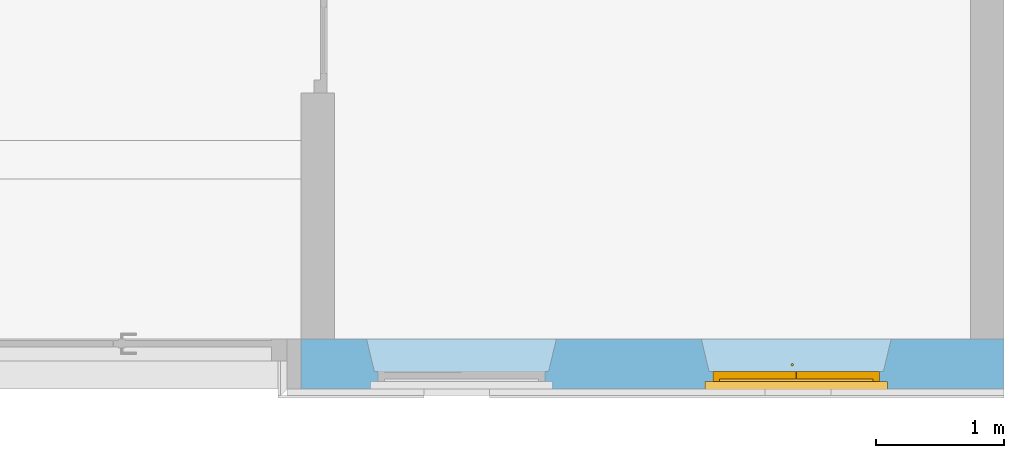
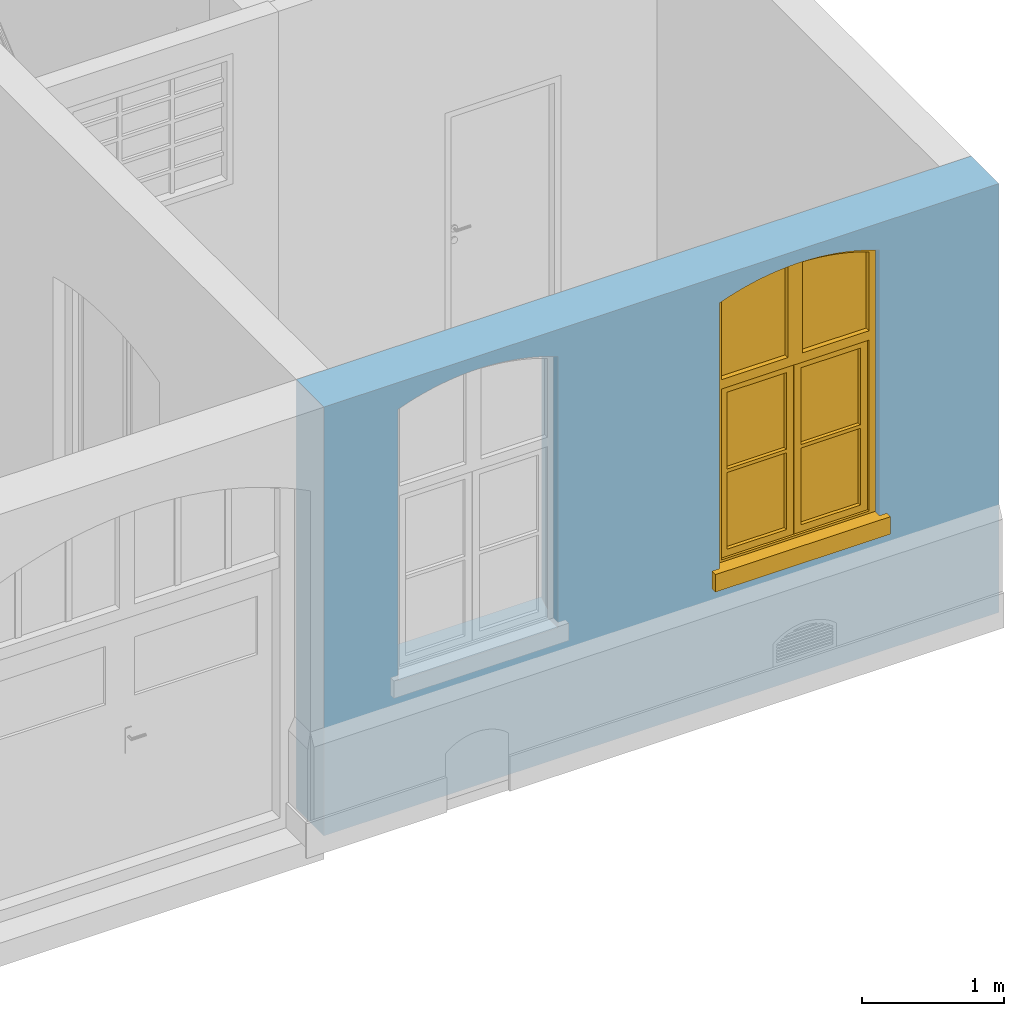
"""IFC4 building model written with IfcOpenShell, lengths in metres."""

import ifcopenshell
import ifcopenshell.guid

model = None  # the IFC model being written
_history = None  # IfcOwnerHistory: only IFC2X3 demands one
_inside = {}  # id of a spatial element -> (the spatial element, [elements in it])
_under = {}  # id of a project, library or spatial element -> (it, [spatial elements below it])
_declared = {}  # id of a project -> (the project, [libraries it declares])
_typed = {}  # id of a type object -> (the type object, [elements of that type])
_made_of = {}  # id of a material, layer set ... -> (it, [elements and type objects made of it])


def new_model(schema):
    """Start an empty IFC model of exactly this schema.

    Asked for "IFC4X3", IfcOpenShell would pick the latest addendum, in which some entities
    have other attributes; the version numbers below select the first issue.
    IFC2X3 requires an IfcOwnerHistory on every rooted entity: one is made here for all.
    """
    global model, _history
    if schema == "IFC4X3":
        model = ifcopenshell.file(schema_version=(4, 3, 0, 0))
    else:
        model = ifcopenshell.file(schema=schema)
    _inside.clear()
    _under.clear()
    _declared.clear()
    _typed.clear()
    _made_of.clear()
    _history = None
    if model.schema == "IFC2X3":
        org = make("IfcOrganization", Name="unknown")
        user = make(
            "IfcPersonAndOrganization",
            ThePerson=make("IfcPerson", FamilyName="unknown"),
            TheOrganization=org,
        )
        app = make(
            "IfcApplication",
            ApplicationDeveloper=org,
            Version="unknown",
            ApplicationFullName="unknown",
            ApplicationIdentifier="unknown",
        )
        _history = make(
            "IfcOwnerHistory",
            OwningUser=user,
            OwningApplication=app,
            ChangeAction="ADDED",
            CreationDate=0,
        )
    return model


def make(cls, **values):
    """One entity of the class cls with the attributes given. An attribute that is None is left unset."""
    return model.create_entity(
        cls, **{name: value for name, value in values.items() if value is not None}
    )


def entity(cls, *values):
    """Any entity or typed value of the class cls, its attributes in the order of the schema. None: left unset."""
    e = model.create_entity(cls)
    for i, value in enumerate(values):
        if value is not None:
            e[i] = value
    return e


def rooted(cls, **values):
    """An entity with a GlobalId (a new one), such as an element, a storey or a relation."""
    return make(cls, GlobalId=ifcopenshell.guid.new(), OwnerHistory=_history, **values)


def si_unit(unit_type, name, prefix=None):
    """IfcSIUnit, for example si_unit("LENGTHUNIT", "METRE", prefix="MILLI")."""
    return make("IfcSIUnit", UnitType=unit_type, Prefix=prefix, Name=name)


def converted_unit(unit_type, name, factor, base, dimensions=None, offset=None):
    """IfcConversionBasedUnit, such as the inch: factor (a typed value) times the base unit."""
    return make(
        "IfcConversionBasedUnit"
        if offset is None
        else "IfcConversionBasedUnitWithOffset",
        ConversionOffset=offset,
        Dimensions=None
        if dimensions is None
        else entity("IfcDimensionalExponents", *dimensions),
        UnitType=unit_type,
        Name=name,
        ConversionFactor=make(
            "IfcMeasureWithUnit", ValueComponent=factor, UnitComponent=base
        ),
    )


def derived_unit(unit_type, elements):
    """IfcDerivedUnit: a product of units, each with its exponent."""
    return make(
        "IfcDerivedUnit",
        Elements=[
            make("IfcDerivedUnitElement", Unit=unit, Exponent=power)
            for unit, power in elements
        ],
        UnitType=unit_type,
    )


def assignment(units):
    """IfcUnitAssignment: the units of a project."""
    return None if units is None else make("IfcUnitAssignment", Units=units)


def point(xyz):
    """IfcCartesianPoint."""
    return None if xyz is None else make("IfcCartesianPoint", Coordinates=xyz)


def direction(xyz):
    """IfcDirection."""
    return None if xyz is None else make("IfcDirection", DirectionRatios=xyz)


def frame(location, z_axis=None, x_axis=None):
    """IfcAxis2Placement3D, a coordinate frame: its origin and axes. An axis left out is left unset."""
    return make(
        "IfcAxis2Placement3D",
        Location=point(location),
        Axis=direction(z_axis),
        RefDirection=direction(x_axis),
    )


def frame_2d(location, x_axis=None):
    """IfcAxis2Placement2D, a coordinate frame in the plane: its origin and x axis."""
    return make(
        "IfcAxis2Placement2D", Location=point(location), RefDirection=direction(x_axis)
    )


def origin():
    """The frame at (0, 0, 0) with its axes left unset."""
    return frame((0.0, 0.0, 0.0))


def origin_with_axes():
    """The frame at (0, 0, 0) with the z axis (0, 0, 1) and the x axis (1, 0, 0) written out."""
    return frame((0.0, 0.0, 0.0), z_axis=(0.0, 0.0, 1.0), x_axis=(1.0, 0.0, 0.0))


def place(relative_to, where):
    """IfcLocalPlacement: puts the frame where relative to a parent placement (None: the world)."""
    return make(
        "IfcLocalPlacement", PlacementRelTo=relative_to, RelativePlacement=where
    )


def context(
    kind, dimensions, precision=None, world=None, true_north=None, identifier=None
):
    """IfcGeometricRepresentationContext, for example the 3D "Model" context."""
    return make(
        "IfcGeometricRepresentationContext",
        ContextIdentifier=identifier,
        ContextType=kind,
        CoordinateSpaceDimension=dimensions,
        Precision=precision,
        WorldCoordinateSystem=world,
        TrueNorth=true_north,
    )


def subcontext(parent, identifier, kind, view, scale=None):
    """IfcGeometricRepresentationSubContext, for example "Body" below "Model"."""
    return make(
        "IfcGeometricRepresentationSubContext",
        ContextIdentifier=identifier,
        ContextType=kind,
        ParentContext=parent,
        TargetScale=scale,
        TargetView=view,
    )


def project(units=None, contexts=None):
    """IfcProject with its units and contexts."""
    return rooted(
        "IfcProject",
        Name="project",
        RepresentationContexts=contexts,
        UnitsInContext=assignment(units),
    )


def spatial(cls, under=None, at=None, **own):
    """A site, building, storey or space (cls), placed at a placement, below another one or the project."""
    s = rooted(cls, ObjectPlacement=at, **own)
    if under is not None:
        _under.setdefault(under.id(), (under, []))[1].append(s)
    return s


def polyline(points):
    """IfcPolyline through the points."""
    return make("IfcPolyline", Points=[point(p) for p in points])


def profile(cls, at=None, kind="AREA", **sizes):
    """A parametric profile (cls). Its sizes go by their IFC names, for example OverallWidth=200.0."""
    return make(cls, ProfileType=kind, Position=at, **sizes)


def rectangle(**sizes):
    """IfcRectangleProfileDef."""
    return profile("IfcRectangleProfileDef", **sizes)


def outline(outer, holes=None, kind="AREA"):
    """IfcArbitraryClosedProfileDef: a profile drawn as a closed curve; with holes, ...WithVoids."""
    if holes is None:
        return make("IfcArbitraryClosedProfileDef", ProfileType=kind, OuterCurve=outer)
    return make(
        "IfcArbitraryProfileDefWithVoids",
        ProfileType=kind,
        OuterCurve=outer,
        InnerCurves=holes,
    )


def extrude(swept, where, along, depth):
    """IfcExtrudedAreaSolid: the profile swept, set in the frame where, extruded along a direction by depth."""
    return make(
        "IfcExtrudedAreaSolid",
        SweptArea=swept,
        Position=where,
        ExtrudedDirection=direction(along),
        Depth=depth,
    )


def faces_of(points, faces, orient=None, outer=None):
    """IfcFace entities. A face is a list of loops; a loop is a list of indices into points, from 0.

    orient and outer hold one flag for each loop. By default every Orientation is true, the
    first loop of a face is its IfcFaceOuterBound and the others are IfcFaceBound.
    """
    made = []
    for i, loops in enumerate(faces):
        bounds = []
        for j, loop in enumerate(loops):
            is_outer = j == 0 if outer is None else outer[i][j]
            bounds.append(
                make(
                    "IfcFaceOuterBound" if is_outer else "IfcFaceBound",
                    Bound=make("IfcPolyLoop", Polygon=[points[k] for k in loop]),
                    Orientation=True if orient is None else orient[i][j],
                )
            )
        made.append(make("IfcFace", Bounds=bounds))
    return made


def closed_shell(faces, orient=None, outer=None):
    """The faces of one IfcClosedShell. faceted_brep and surface_model build it on their shared points."""
    return ("IfcClosedShell", faces, orient, outer)


def open_shell(faces, orient=None, outer=None):
    """The faces of one IfcOpenShell. surface_model builds it on its shared points."""
    return ("IfcOpenShell", faces, orient, outer)


def surface_model(cls, points, shells):
    """IfcFaceBasedSurfaceModel or IfcShellBasedSurfaceModel (cls): surfaces that need not close."""
    shared = [point(p) for p in points]
    made = [make(c, CfsFaces=faces_of(shared, fs, o, b)) for c, fs, o, b in shells]
    if cls == "IfcFaceBasedSurfaceModel":
        return make(cls, FbsmFaces=made)
    return make(cls, SbsmBoundary=made)


def shape(context_of_items, identifier, shape_type, items):
    """IfcShapeRepresentation: the items that make up one representation, for example the "Body"."""
    return make(
        "IfcShapeRepresentation",
        ContextOfItems=context_of_items,
        RepresentationIdentifier=identifier,
        RepresentationType=shape_type,
        Items=items,
    )


def source(mapping_origin, context_of_items, identifier, shape_type, items):
    """IfcRepresentationMap: a shape defined once, which mapped items show again and again."""
    return make(
        "IfcRepresentationMap",
        MappingOrigin=mapping_origin,
        MappedRepresentation=shape(context_of_items, identifier, shape_type, items),
    )


def transform(
    local_origin,
    x_axis=None,
    y_axis=None,
    z_axis=None,
    scale=None,
    scale2=None,
    scale3=None,
    uniform=True,
):
    """IfcCartesianTransformationOperator3D, or its non-uniform kind. x_axis, y_axis, z_axis: its Axis1, 2, 3."""
    if uniform:
        return make(
            "IfcCartesianTransformationOperator3D",
            Axis1=direction(x_axis),
            Axis2=direction(y_axis),
            LocalOrigin=point(local_origin),
            Scale=scale,
            Axis3=direction(z_axis),
        )
    return make(
        "IfcCartesianTransformationOperator3DnonUniform",
        Axis1=direction(x_axis),
        Axis2=direction(y_axis),
        LocalOrigin=point(local_origin),
        Scale=scale,
        Axis3=direction(z_axis),
        Scale2=scale2,
        Scale3=scale3,
    )


def mapped(mapping_source, mapping_target):
    """IfcMappedItem: shows the shape of a source again, moved by a transform."""
    return make(
        "IfcMappedItem", MappingSource=mapping_source, MappingTarget=mapping_target
    )


def material(Name=None, Category=None):
    """IfcMaterial."""
    return make("IfcMaterial", Name=Name, Category=Category)


def layer(
    of_material, thickness, ventilated=None, Name=None, Category=None, Priority=None
):
    """IfcMaterialLayer: one layer of a wall or slab, of a material (None: an air gap)."""
    return make(
        "IfcMaterialLayer",
        Material=of_material,
        LayerThickness=thickness,
        IsVentilated=ventilated,
        Name=Name,
        Category=Category,
        Priority=Priority,
    )


def layer_set(layers, Name=None):
    """IfcMaterialLayerSet."""
    return make("IfcMaterialLayerSet", MaterialLayers=layers, LayerSetName=Name)


def layer_usage(for_layer_set, set_direction, sense, offset, extent=None):
    """IfcMaterialLayerSetUsage: how a layer set lies in its element."""
    return make(
        "IfcMaterialLayerSetUsage",
        ForLayerSet=for_layer_set,
        LayerSetDirection=set_direction,
        DirectionSense=sense,
        OffsetFromReferenceLine=offset,
        ReferenceExtent=extent,
    )


def made_of(thing, what):
    """Note that an element or type object is made of a material, layer set ...; save() writes the relation."""
    if what is not None:
        _made_of.setdefault(what.id(), (what, []))[1].append(thing)
    return thing


def element(
    cls,
    number,
    at=None,
    inside=None,
    cuts=None,
    type_object=None,
    material=None,
    context=None,
    identifier="Body",
    shape_type=None,
    held_by="IfcProductDefinitionShape",
    body=None,
    shapes=None,
    **own,
):
    """One element of the class cls, such as IfcWall. Its Tag is "e" and its number.

    at: its placement. inside: the storey or other place that contains it. cuts: it is an
    opening in that element (IfcRelVoidsElement). A single representation is given by context,
    identifier, shape_type and body (its items); several are given by shapes. held_by: the class
    of the entity that holds the representations. save() writes the other relations.
    """
    e = rooted(cls, Tag="e%d" % number, ObjectPlacement=at, **own)
    if body is not None:
        shapes = [shape(context, identifier, shape_type, body)]
    if shapes is not None:
        e.Representation = make(held_by, Representations=shapes)
    if inside is not None:
        _inside.setdefault(inside.id(), (inside, []))[1].append(e)
    if cuts is not None:
        rooted(
            "IfcRelVoidsElement", RelatingBuildingElement=cuts, RelatedOpeningElement=e
        )
    if type_object is not None:
        _typed.setdefault(type_object.id(), (type_object, []))[1].append(e)
    return made_of(e, material)


def fill(opening, filler):
    """IfcRelFillsElement: the door or window that sits in an opening."""
    return rooted(
        "IfcRelFillsElement",
        RelatingOpeningElement=opening,
        RelatedBuildingElement=filler,
    )


def aggregate(whole, parts):
    """IfcRelAggregates: a whole, such as a stair, and the parts it consists of."""
    return rooted("IfcRelAggregates", RelatingObject=whole, RelatedObjects=parts)


def save(model, path):
    """Write the relations noted so far, then the file.

    IfcRelAggregates (storeys below a building ...), IfcRelContainedInSpatialStructure (elements
    in a storey), IfcRelDefinesByType, IfcRelAssociatesMaterial and IfcRelDeclares: one each for
    every whole, place, type object, material and project.
    """
    for whole, parts in _under.values():
        aggregate(whole, parts)
    for where, things in _inside.values():
        rooted(
            "IfcRelContainedInSpatialStructure",
            RelatedElements=things,
            RelatingStructure=where,
        )
    for kind, things in _typed.values():
        rooted("IfcRelDefinesByType", RelatedObjects=things, RelatingType=kind)
    for what, things in _made_of.values():
        rooted("IfcRelAssociatesMaterial", RelatedObjects=things, RelatingMaterial=what)
    for by, libraries in _declared.values():
        rooted("IfcRelDeclares", RelatingContext=by, RelatedDefinitions=libraries)
    model.write(path)


model = new_model("IFC4")

# Units and contexts
model_context = context("Model", 3, precision=1e-05, world=origin())
body_context = subcontext(model_context, "Body", "Model", "MODEL_VIEW")
ifc_project = project(units=[si_unit("LENGTHUNIT", "METRE"), si_unit("AREAUNIT", "SQUARE_METRE"), si_unit("VOLUMEUNIT", "CUBIC_METRE"), si_unit("MASSUNIT", "GRAM", prefix="KILO"), converted_unit("PLANEANGLEUNIT", "DEGREE", entity("IfcPlaneAngleMeasure", 0.0174532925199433), si_unit("PLANEANGLEUNIT", "RADIAN"), dimensions=[0, 0, 0, 0, 0, 0, 0]), derived_unit("THERMALTRANSMITTANCEUNIT", [(si_unit("POWERUNIT", "WATT"), 1), (si_unit("THERMODYNAMICTEMPERATUREUNIT", "KELVIN"), -1), (si_unit("LENGTHUNIT", "METRE"), -2)]), derived_unit("VOLUMETRICFLOWRATEUNIT", [(si_unit("LENGTHUNIT", "METRE"), 3), (converted_unit("TIMEUNIT", "hour", entity("IfcTimeMeasure", 3600.0), si_unit("TIMEUNIT", "SECOND"), dimensions=[0, 0, 1, 0, 0, 0, 0]), -1), (si_unit("LENGTHUNIT", "METRE"), -1)])], contexts=[model_context])

# Building, storeys
building_placement = place(None, origin())
building = spatial("IfcBuilding", under=ifc_project, at=building_placement, Name="Bestandsgebäude A - Sporthalle / Wohnhaus (TB 100-499)   ANPASSEN !!!", CompositionType="ELEMENT")
storey_1_placement = place(building_placement, origin())
storey_1 = spatial("IfcBuildingStorey", under=building, at=storey_1_placement, Name="Geb. A Erdgeschoss (TB 200-249)", CompositionType="ELEMENT", Elevation=0.0)
storey_2_placement = place(storey_1_placement, origin())
storey_2 = spatial("IfcBuildingStorey", under=storey_1, at=storey_2_placement, Name="Architektur (TB 200-209)", CompositionType="PARTIAL")

# Wall, openings, window
ifc_material = material(Name="concrete")
ifc_layer = layer(ifc_material, 0.39)
ifc_layer_set = layer_set([ifc_layer])
ifc_layer_usage = layer_usage(ifc_layer_set, "AXIS2", "POSITIVE", 0.0)
wall_placement = place(storey_2_placement, frame((-5.48, 0.0, -0.21), z_axis=(0.0, 0.0, 1.0), x_axis=(1.0, -3.67027395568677e-16, 0.0)))
wall = element("IfcWall", 1, at=wall_placement, inside=storey_2, material=ifc_layer_usage, Name="reinforced - bearing", PredefinedType="USERDEFINED", context=body_context, shape_type="SweptSolid", body=[
    extrude(rectangle(XDim=5.47999999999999, YDim=0.39, at=frame_2d((2.74, 0.195), x_axis=(1.0, 0.0))), origin_with_axes(), (0.0, 0.0, 1.0), 3.68),
])
opening_1_placement = place(wall_placement, frame((3.21, 0.0, 1.12), z_axis=(0.0, 1.0, 0.0), x_axis=(0.0, 0.0, 1.0)))
opening_1 = element("IfcOpeningElement", 2, at=opening_1_placement, cuts=wall, Name="Window opening", PredefinedType="OPENING", context=body_context, shape_type="SweptSolid", body=[
    extrude(outline(polyline([(2.33, 1.3), (2.34531656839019, 1.25842115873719), (2.35961661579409, 1.21648184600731), (2.3728916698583, 1.17420690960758), (2.38513386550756, 1.1316213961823), (2.3963359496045, 1.08875053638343), (2.40649128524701, 1.04561972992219), (2.41559385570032, 1.00225453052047), (2.42363826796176, 0.958680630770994), (2.43061975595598, 0.914923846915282), (2.43653418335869, 0.871010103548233), (2.44137804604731, 0.826965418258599), (2.44514847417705, 0.782815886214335), (2.44784323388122, 0.738587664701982), (2.44946072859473, 0.694306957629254), (2.45, 0.65), (2.44946072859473, 0.605693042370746), (2.44784323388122, 0.561412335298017), (2.44514847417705, 0.517184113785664), (2.44137804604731, 0.4730345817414), (2.43653418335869, 0.428989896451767), (2.43061975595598, 0.385076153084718), (2.42363826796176, 0.341319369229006), (2.41559385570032, 0.297745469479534), (2.40649128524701, 0.254380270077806), (2.3963359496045, 0.211249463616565), (2.38513386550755, 0.168378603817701), (2.3728916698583, 0.125793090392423), (2.35961661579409, 0.0835181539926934), (2.34531656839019, 0.0415788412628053), (2.33, 0.0), (0.0, 0.0), (0.0, 1.3), (2.33, 1.3)])), origin_with_axes(), (0.0, 0.0, 1.0), 0.39),
])
opening_2_placement = place(wall_placement, frame((0.599999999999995, 0.0, 1.12), z_axis=(-2.91504712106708e-16, 1.0, 0.0), x_axis=(0.0, 0.0, 1.0)))
element("IfcOpeningElement", 3, at=opening_2_placement, cuts=wall, Name="Window opening", PredefinedType="OPENING", context=body_context, shape_type="SweptSolid", body=[
    extrude(outline(polyline([(2.33, 1.3), (2.34531656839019, 1.25842115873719), (2.35961661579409, 1.21648184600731), (2.3728916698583, 1.17420690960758), (2.38513386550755, 1.1316213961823), (2.3963359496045, 1.08875053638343), (2.40649128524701, 1.04561972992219), (2.41559385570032, 1.00225453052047), (2.42363826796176, 0.958680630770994), (2.43061975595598, 0.914923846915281), (2.43653418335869, 0.871010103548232), (2.44137804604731, 0.826965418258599), (2.44514847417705, 0.782815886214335), (2.44784323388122, 0.738587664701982), (2.44946072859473, 0.694306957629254), (2.45, 0.649999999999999), (2.44946072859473, 0.605693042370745), (2.44784323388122, 0.561412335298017), (2.44514847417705, 0.517184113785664), (2.44137804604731, 0.473034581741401), (2.43653418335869, 0.428989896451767), (2.43061975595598, 0.385076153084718), (2.42363826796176, 0.341319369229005), (2.41559385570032, 0.297745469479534), (2.40649128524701, 0.254380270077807), (2.3963359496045, 0.211249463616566), (2.38513386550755, 0.1683786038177), (2.3728916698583, 0.125793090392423), (2.35961661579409, 0.0835181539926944), (2.34531656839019, 0.0415788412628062), (2.33, 0.0), (0.0, 0.0), (0.0, 1.3), (2.33, 1.3)])), origin_with_axes(), (0.0, 0.0, 1.0), 0.39),
])
opening_3_placement = place(wall_placement, frame((4.6, 0.39, 1.12), z_axis=(0.0, 0.0, 1.0), x_axis=(-1.0, -3.84077154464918e-17, 0.0)))
element("IfcOpeningElement", 4, at=opening_3_placement, cuts=wall, Name="Wall Niche", ObjectType="Opening", context=body_context, shape_type="SweptSolid", body=[
    extrude(outline(polyline([(0.0, 0.0), (1.48, 0.0), (1.42, 0.24999999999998), (0.0600000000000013, 0.24999999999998), (0.0, 0.0)])), origin_with_axes(), (0.0, 0.0, 1.0), 2.45),
])
opening_4_placement = place(wall_placement, frame((1.99, 0.39, 1.12), z_axis=(0.0, 0.0, 1.0), x_axis=(-1.0, 0.0, 0.0)))
element("IfcOpeningElement", 5, at=opening_4_placement, cuts=wall, Name="Wall Niche", ObjectType="Opening", context=body_context, shape_type="SweptSolid", body=[
    extrude(outline(polyline([(0.0, 0.0), (1.48, 0.0), (1.42, 0.249999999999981), (0.0600000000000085, 0.249999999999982), (0.0, 0.0)])), origin_with_axes(), (0.0, 0.0, 1.0), 2.45),
])
shared_shape = source(origin_with_axes(), body_context, "Body", "SurfaceModel", [
    surface_model("IfcShellBasedSurfaceModel", [(1.36, 0.19, -0.1), (1.36, 0.0800000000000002, -0.1), (1.36, 0.0800000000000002, 0.05), (1.36, 0.19, 0.05), (-0.06, 0.0799999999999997, -0.0999999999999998), (-0.06, 0.19, -0.0999999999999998), (-0.06, 0.19, 0.0500000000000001), (-0.06, 0.0799999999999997, 0.0500000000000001)], [closed_shell([[[0, 1, 2, 3]], [[4, 5, 6, 7]], [[1, 0, 5, 4]], [[2, 1, 4, 7]], [[3, 2, 7, 6]], [[0, 3, 6, 5]]], orient=[[False], [False], [False], [False], [False], [False]])]),
    surface_model("IfcShellBasedSurfaceModel", [(1.258421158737, 0.0, 2.34531656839), (1.3, 0.0, 2.33), (1.3, 0.0, 0.0), (0.0, 0.0, 0.0), (0.0, 0.0, 2.33), (0.041578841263, 0.0, 2.34531656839), (0.0835181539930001, 0.0, 2.359616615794), (0.125793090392, 0.0, 2.372891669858), (0.168378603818, 0.0, 2.385133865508), (0.211249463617, 0.0, 2.396335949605), (0.254380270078, 0.0, 2.406491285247), (0.29774546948, 0.0, 2.4155938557), (0.341319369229, 0.0, 2.423638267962), (0.385076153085, 0.0, 2.430619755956), (0.428989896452, 0.0, 2.436534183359), (0.473034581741, 0.0, 2.441378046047), (0.517184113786, 0.0, 2.445148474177), (0.561412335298, 0.0, 2.447843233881), (0.605693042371, 0.0, 2.449460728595), (0.65, 0.0, 2.45), (0.694306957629, 0.0, 2.449460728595), (0.738587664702, 0.0, 2.447843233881), (0.782815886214, 0.0, 2.445148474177), (0.826965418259, 0.0, 2.441378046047), (0.871010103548, 0.0, 2.436534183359), (0.914923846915, 0.0, 2.430619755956), (0.958680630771, 0.0, 2.423638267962), (1.00225453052, 0.0, 2.4155938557), (1.045619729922, 0.0, 2.406491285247), (1.088750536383, 0.0, 2.396335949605), (1.131621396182, 0.0, 2.385133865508), (1.174206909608, 0.0, 2.372891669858), (1.216481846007, 0.0, 2.359616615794), (1.25, 0.0, 2.2951341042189), (1.24170887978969, 0.0, 2.2981883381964), (1.20092156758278, 0.0, 2.31209558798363), (1.15980785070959, 0.0, 2.32500599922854), (1.11839208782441, 0.0, 2.33691192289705), (1.07669881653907, 0.0, 2.3478063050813), (1.03475273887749, 0.0, 2.35768269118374), (0.992578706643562, 0.0, 2.36653522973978), (0.950201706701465, 0.0, 2.37435867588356), (0.907646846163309, 0.0, 2.38114839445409), (0.864939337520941, 0.0, 2.38690036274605), (0.822104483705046, 0.0, 2.39161117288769), (0.779167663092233, 0.0, 2.39527803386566), (0.736154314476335, 0.0, 2.39789877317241), (0.693089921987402, 0.0, 2.3994718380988), (0.65, 0.0, 2.39999629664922), (0.606910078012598, 0.0, 2.3994718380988), (0.563845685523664, 0.0, 2.39789877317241), (0.520832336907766, 0.0, 2.39527803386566), (0.477895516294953, 0.0, 2.39161117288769), (0.435060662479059, 0.0, 2.38690036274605), (0.392353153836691, 0.0, 2.38114839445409), (0.349798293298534, 0.0, 2.37435867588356), (0.307421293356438, 0.0, 2.36653522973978), (0.265247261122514, 0.0, 2.35768269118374), (0.223301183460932, 0.0, 2.3478063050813), (0.181607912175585, 0.0, 2.33691192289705), (0.140192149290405, 0.0, 2.32500599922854), (0.0990784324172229, 0.0, 2.31209558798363), (0.058291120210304, 0.0, 2.2981883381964), (0.05, 0.0, 2.2951341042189), (0.05, 0.0, 0.07), (1.25, 0.0, 0.07), (1.3, 0.0799999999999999, 2.33), (1.258421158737, 0.0799999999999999, 2.34531656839), (1.216481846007, 0.0799999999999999, 2.359616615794), (1.174206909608, 0.0799999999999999, 2.372891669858), (1.131621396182, 0.0799999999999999, 2.385133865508), (1.088750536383, 0.0799999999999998, 2.396335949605), (1.045619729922, 0.0799999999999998, 2.406491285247), (1.00225453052, 0.0799999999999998, 2.4155938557), (0.958680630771, 0.0799999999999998, 2.423638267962), (0.914923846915, 0.0799999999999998, 2.430619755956), (0.871010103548, 0.0799999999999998, 2.436534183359), (0.826965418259, 0.0799999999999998, 2.441378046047), (0.782815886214, 0.0799999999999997, 2.445148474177), (0.738587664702, 0.0799999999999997, 2.447843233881), (0.694306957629, 0.0799999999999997, 2.449460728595), (0.65, 0.0799999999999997, 2.45), (0.605693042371, 0.0799999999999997, 2.449460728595), (0.561412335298, 0.0799999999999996, 2.447843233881), (0.517184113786, 0.0799999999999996, 2.445148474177), (0.473034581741, 0.0799999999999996, 2.441378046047), (0.428989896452, 0.0799999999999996, 2.436534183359), (0.385076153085, 0.0799999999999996, 2.430619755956), (0.341319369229, 0.0799999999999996, 2.423638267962), (0.29774546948, 0.0799999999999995, 2.4155938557), (0.254380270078, 0.0799999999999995, 2.406491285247), (0.211249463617, 0.0799999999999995, 2.396335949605), (0.168378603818, 0.0799999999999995, 2.385133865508), (0.125793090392, 0.0799999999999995, 2.372891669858), (0.0835181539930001, 0.0799999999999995, 2.359616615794), (0.041578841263, 0.0799999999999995, 2.34531656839), (0.0, 0.0799999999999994, 2.33), (0.0, 0.0799999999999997, 0.0), (1.3, 0.0800000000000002, 0.0), (1.24170887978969, 0.0799999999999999, 2.2981883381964), (1.25, 0.0799999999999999, 2.2951341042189), (1.25, 0.0800000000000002, 0.07), (0.05, 0.0799999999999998, 0.07), (0.05, 0.0799999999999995, 2.2951341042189), (0.058291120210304, 0.0799999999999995, 2.2981883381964), (0.0990784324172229, 0.0799999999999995, 2.31209558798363), (0.140192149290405, 0.0799999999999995, 2.32500599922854), (0.181607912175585, 0.0799999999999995, 2.33691192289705), (0.223301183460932, 0.0799999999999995, 2.3478063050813), (0.265247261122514, 0.0799999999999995, 2.35768269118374), (0.307421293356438, 0.0799999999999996, 2.36653522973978), (0.349798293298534, 0.0799999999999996, 2.37435867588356), (0.392353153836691, 0.0799999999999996, 2.38114839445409), (0.435060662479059, 0.0799999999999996, 2.38690036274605), (0.477895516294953, 0.0799999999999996, 2.39161117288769), (0.520832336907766, 0.0799999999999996, 2.39527803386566), (0.563845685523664, 0.0799999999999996, 2.39789877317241), (0.606910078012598, 0.0799999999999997, 2.3994718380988), (0.65, 0.0799999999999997, 2.39999629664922), (0.693089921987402, 0.0799999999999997, 2.3994718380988), (0.736154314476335, 0.0799999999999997, 2.39789877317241), (0.779167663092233, 0.0799999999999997, 2.39527803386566), (0.822104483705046, 0.0799999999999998, 2.39161117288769), (0.864939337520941, 0.0799999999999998, 2.38690036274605), (0.907646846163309, 0.0799999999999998, 2.38114839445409), (0.950201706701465, 0.0799999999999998, 2.37435867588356), (0.992578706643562, 0.0799999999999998, 2.36653522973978), (1.03475273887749, 0.0799999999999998, 2.35768269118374), (1.07669881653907, 0.0799999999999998, 2.3478063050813), (1.11839208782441, 0.0799999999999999, 2.33691192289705), (1.15980785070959, 0.0799999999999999, 2.32500599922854), (1.20092156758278, 0.0799999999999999, 2.31209558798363)], [closed_shell([[[0, 1, 2, 3, 4, 5, 6, 7, 8, 9, 10, 11, 12, 13, 14, 15, 16, 17, 18, 19, 20, 21, 22, 23, 24, 25, 26, 27, 28, 29, 30, 31, 32], [33, 34, 35, 36, 37, 38, 39, 40, 41, 42, 43, 44, 45, 46, 47, 48, 49, 50, 51, 52, 53, 54, 55, 56, 57, 58, 59, 60, 61, 62, 63, 64, 65]], [[66, 67, 68, 69, 70, 71, 72, 73, 74, 75, 76, 77, 78, 79, 80, 81, 82, 83, 84, 85, 86, 87, 88, 89, 90, 91, 92, 93, 94, 95, 96, 97, 98], [99, 100, 101, 102, 103, 104, 105, 106, 107, 108, 109, 110, 111, 112, 113, 114, 115, 116, 117, 118, 119, 120, 121, 122, 123, 124, 125, 126, 127, 128, 129, 130, 131]], [[1, 0, 67, 66]], [[2, 1, 66, 98]], [[3, 2, 98, 97]], [[4, 3, 97, 96]], [[5, 4, 96, 95]], [[6, 5, 95, 94]], [[7, 6, 94, 93]], [[8, 7, 93, 92]], [[9, 8, 92, 91]], [[10, 9, 91, 90]], [[11, 10, 90, 89]], [[12, 11, 89, 88]], [[13, 12, 88, 87]], [[14, 13, 87, 86]], [[15, 14, 86, 85]], [[16, 15, 85, 84]], [[17, 16, 84, 83]], [[18, 17, 83, 82]], [[19, 18, 82, 81]], [[20, 19, 81, 80]], [[21, 20, 80, 79]], [[22, 21, 79, 78]], [[23, 22, 78, 77]], [[24, 23, 77, 76]], [[25, 24, 76, 75]], [[26, 25, 75, 74]], [[27, 26, 74, 73]], [[28, 27, 73, 72]], [[29, 28, 72, 71]], [[30, 29, 71, 70]], [[31, 30, 70, 69]], [[32, 31, 69, 68]], [[0, 32, 68, 67]], [[33, 100, 99, 34]], [[65, 101, 100, 33]], [[64, 102, 101, 65]], [[63, 103, 102, 64]], [[62, 104, 103, 63]], [[61, 105, 104, 62]], [[60, 106, 105, 61]], [[59, 107, 106, 60]], [[58, 108, 107, 59]], [[57, 109, 108, 58]], [[56, 110, 109, 57]], [[55, 111, 110, 56]], [[54, 112, 111, 55]], [[53, 113, 112, 54]], [[52, 114, 113, 53]], [[51, 115, 114, 52]], [[50, 116, 115, 51]], [[49, 117, 116, 50]], [[48, 118, 117, 49]], [[47, 119, 118, 48]], [[46, 120, 119, 47]], [[45, 121, 120, 46]], [[44, 122, 121, 45]], [[43, 123, 122, 44]], [[42, 124, 123, 43]], [[41, 125, 124, 42]], [[40, 126, 125, 41]], [[39, 127, 126, 40]], [[38, 128, 127, 39]], [[37, 129, 128, 38]], [[36, 130, 129, 37]], [[35, 131, 130, 36]], [[34, 99, 131, 35]]], orient=[[False, False], [False, False], [False], [False], [False], [False], [False], [False], [False], [False], [False], [False], [False], [False], [False], [False], [False], [False], [False], [False], [False], [False], [False], [False], [False], [False], [False], [False], [False], [False], [False], [False], [False], [False], [False], [False], [False], [False], [False], [False], [False], [False], [False], [False], [False], [False], [False], [False], [False], [False], [False], [False], [False], [False], [False], [False], [False], [False], [False], [False], [False], [False], [False], [False], [False], [False], [False], [False]])]),
    surface_model("IfcShellBasedSurfaceModel", [(1.25, 0.0, 1.61701834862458), (1.25, 0.0, 1.53701834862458), (0.05, 0.0, 1.53701834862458), (0.05, 0.0, 1.61701834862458), (1.25, 0.08, 1.53701834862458), (1.25, 0.08, 1.61701834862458), (0.05, 0.0799999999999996, 1.61701834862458), (0.05, 0.0799999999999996, 1.53701834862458)], [closed_shell([[[0, 1, 2, 3]], [[4, 5, 6, 7]], [[1, 0, 5, 4]], [[2, 1, 4, 7]], [[3, 2, 7, 6]], [[0, 3, 6, 5]]], orient=[[False], [False], [False], [False], [False], [False]])]),
    surface_model("IfcShellBasedSurfaceModel", [(0.71, 0.0, 2.39885414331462), (0.71, 0.0, 1.61701834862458), (0.59, 0.0, 1.61701834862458), (0.59, 0.0, 2.39885414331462), (0.606910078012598, 0.0, 2.3994718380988), (0.65, 0.0, 2.39999629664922), (0.693089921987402, 0.0, 2.3994718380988), (0.71, 0.0799999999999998, 1.61701834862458), (0.71, 0.0799999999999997, 2.39885414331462), (0.693089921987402, 0.0799999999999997, 2.3994718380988), (0.65, 0.0799999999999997, 2.39999629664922), (0.606910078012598, 0.0799999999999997, 2.3994718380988), (0.59, 0.0799999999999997, 2.39885414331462), (0.59, 0.0799999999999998, 1.61701834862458)], [closed_shell([[[0, 1, 2, 3, 4, 5, 6]], [[7, 8, 9, 10, 11, 12, 13]], [[1, 0, 8, 7]], [[2, 1, 7, 13]], [[3, 2, 13, 12]], [[4, 3, 12, 11]], [[5, 4, 11, 10]], [[6, 5, 10, 9]], [[0, 6, 9, 8]]], orient=[[False], [False], [False], [False], [False], [False], [False], [False], [False]])]),
    surface_model("IfcShellBasedSurfaceModel", [(0.650499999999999, 0.0, 0.07), (0.650499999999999, 0.0, 1.53701834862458), (1.25, 0.0, 1.53701834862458), (1.25, 0.0, 0.07), (0.710499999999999, 0.0, 1.47701834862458), (0.710499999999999, 0.0, 0.13), (1.19, 0.0, 0.13), (1.19, 0.0, 1.47701834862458), (0.650499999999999, 0.0599999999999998, 1.53701834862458), (0.650499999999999, 0.0599999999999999, 0.07), (1.25, 0.0600000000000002, 0.07), (1.25, 0.06, 1.53701834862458), (0.710499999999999, 0.0599999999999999, 0.13), (0.710499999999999, 0.0599999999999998, 1.47701834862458), (1.19, 0.06, 1.47701834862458), (1.19, 0.0600000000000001, 0.13)], [closed_shell([[[0, 1, 2, 3], [4, 5, 6, 7]], [[8, 9, 10, 11], [12, 13, 14, 15]], [[1, 0, 9, 8]], [[2, 1, 8, 11]], [[3, 2, 11, 10]], [[0, 3, 10, 9]], [[4, 13, 12, 5]], [[7, 14, 13, 4]], [[6, 15, 14, 7]], [[5, 12, 15, 6]]], orient=[[False, False], [False, False], [False], [False], [False], [False], [False], [False], [False], [False]])]),
    surface_model("IfcShellBasedSurfaceModel", [(0.693, 0.0, 0.17), (0.668, 0.0, 0.17), (0.668, 0.0, 0.13), (0.693, 0.0, 0.13), (0.693, -0.0100000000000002, 0.13), (0.668, -0.0100000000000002, 0.13), (0.668, -0.0100000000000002, 0.17), (0.693, -0.0100000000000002, 0.17)], [closed_shell([[[0, 1, 2, 3]], [[4, 5, 6, 7]], [[3, 4, 7, 0]], [[2, 5, 4, 3]], [[1, 6, 5, 2]], [[0, 7, 6, 1]]], orient=[[False], [False], [False], [False], [False], [False]])]),
    surface_model("IfcShellBasedSurfaceModel", [(0.6705, -0.0100000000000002, 0.15), (0.671839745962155, -0.0100000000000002, 0.145), (0.6755, -0.0100000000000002, 0.141339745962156), (0.6805, -0.0100000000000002, 0.14), (0.6855, -0.0100000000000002, 0.141339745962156), (0.689160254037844, -0.0100000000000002, 0.145), (0.6905, -0.0100000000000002, 0.15), (0.689160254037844, -0.0100000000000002, 0.155), (0.6855, -0.0100000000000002, 0.158660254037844), (0.6805, -0.0100000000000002, 0.16), (0.6755, -0.0100000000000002, 0.158660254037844), (0.671839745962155, -0.0100000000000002, 0.155), (0.671839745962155, -0.0550000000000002, 0.155), (0.6705, -0.0500000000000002, 0.15), (0.6755, -0.0586602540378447, 0.158660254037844), (0.6805, -0.0600000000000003, 0.16), (0.6855, -0.0586602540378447, 0.158660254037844), (0.689160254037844, -0.0550000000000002, 0.155), (0.6905, -0.0500000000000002, 0.15), (0.689160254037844, -0.0450000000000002, 0.145), (0.6855, -0.0413397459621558, 0.141339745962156), (0.6805, -0.0400000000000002, 0.14), (0.6755, -0.0413397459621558, 0.141339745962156), (0.671839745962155, -0.0450000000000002, 0.145), (0.6705, -0.0500000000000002, 0.035), (0.671839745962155, -0.0550000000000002, 0.035), (0.6755, -0.0586602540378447, 0.035), (0.6805, -0.0600000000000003, 0.035), (0.6855, -0.0586602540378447, 0.035), (0.689160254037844, -0.0550000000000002, 0.035), (0.6905, -0.0500000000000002, 0.035), (0.689160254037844, -0.0450000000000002, 0.035), (0.6855, -0.0413397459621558, 0.035), (0.6805, -0.0400000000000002, 0.035), (0.6755, -0.0413397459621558, 0.035), (0.671839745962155, -0.0450000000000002, 0.035)], [closed_shell([[[0, 1, 2, 3, 4, 5, 6, 7, 8, 9, 10, 11]], [[0, 11, 12, 13]], [[11, 10, 14, 12]], [[10, 9, 15, 14]], [[9, 8, 16, 15]], [[8, 7, 17, 16]], [[7, 6, 18, 17]], [[6, 5, 19, 18]], [[5, 4, 20, 19]], [[4, 3, 21, 20]], [[3, 2, 22, 21]], [[2, 1, 23, 22]], [[1, 0, 13, 23]], [[24, 25, 26, 27, 28, 29, 30, 31, 32, 33, 34, 35]], [[13, 12, 25, 24]], [[12, 14, 26, 25]], [[14, 15, 27, 26]], [[15, 16, 28, 27]], [[16, 17, 29, 28]], [[17, 18, 30, 29]], [[18, 19, 31, 30]], [[19, 20, 32, 31]], [[20, 21, 33, 32]], [[21, 22, 34, 33]], [[22, 23, 35, 34]], [[23, 13, 24, 35]]], orient=[[False], [False], [False], [False], [False], [False], [False], [False], [False], [False], [False], [False], [False], [False], [False], [False], [False], [False], [False], [False], [False], [False], [False], [False], [False], [False]])]),
    surface_model("IfcShellBasedSurfaceModel", [(0.649499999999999, 0.0, 1.53701834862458), (0.649499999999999, 0.0, 0.07), (0.05, 0.0, 0.07), (0.05, 0.0, 1.53701834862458), (0.589499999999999, 0.0, 0.13), (0.589499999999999, 0.0, 1.47701834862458), (0.11, 0.0, 1.47701834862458), (0.11, 0.0, 0.13), (0.649499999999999, 0.0599999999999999, 0.07), (0.649499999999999, 0.0599999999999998, 1.53701834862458), (0.05, 0.0599999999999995, 1.53701834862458), (0.05, 0.0599999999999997, 0.07), (0.589499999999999, 0.0599999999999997, 1.47701834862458), (0.589499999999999, 0.0599999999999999, 0.13), (0.11, 0.0599999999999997, 0.13), (0.11, 0.0599999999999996, 1.47701834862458)], [closed_shell([[[0, 1, 2, 3], [4, 5, 6, 7]], [[8, 9, 10, 11], [12, 13, 14, 15]], [[1, 0, 9, 8]], [[2, 1, 8, 11]], [[3, 2, 11, 10]], [[0, 3, 10, 9]], [[4, 13, 12, 5]], [[7, 14, 13, 4]], [[6, 15, 14, 7]], [[5, 12, 15, 6]]], orient=[[False, False], [False, False], [False], [False], [False], [False], [False], [False], [False], [False]])]),
    surface_model("IfcShellBasedSurfaceModel", [(0.589499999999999, 0.0, 0.81850917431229), (0.589499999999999, 0.0, 0.78850917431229), (0.11, 0.0, 0.78850917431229), (0.11, 0.0, 0.81850917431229), (0.589499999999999, 0.0599999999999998, 0.78850917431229), (0.589499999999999, 0.0599999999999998, 0.81850917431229), (0.11, 0.0599999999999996, 0.81850917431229), (0.11, 0.0599999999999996, 0.78850917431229)], [closed_shell([[[0, 1, 2, 3]], [[4, 5, 6, 7]], [[1, 0, 5, 4]], [[2, 1, 4, 7]], [[3, 2, 7, 6]], [[0, 3, 6, 5]]], orient=[[False], [False], [False], [False], [False], [False]])]),
    surface_model("IfcShellBasedSurfaceModel", [(1.19, 0.0, 0.81850917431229), (1.19, 0.0, 0.78850917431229), (0.710499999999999, 0.0, 0.78850917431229), (0.710499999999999, 0.0, 0.81850917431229), (1.19, 0.06, 0.78850917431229), (1.19, 0.06, 0.81850917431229), (0.710499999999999, 0.0599999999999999, 0.81850917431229), (0.710499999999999, 0.0599999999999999, 0.78850917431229)], [closed_shell([[[0, 1, 2, 3]], [[4, 5, 6, 7]], [[1, 0, 5, 4]], [[2, 1, 4, 7]], [[3, 2, 7, 6]], [[0, 3, 6, 5]]], orient=[[False], [False], [False], [False], [False], [False]])]),
    surface_model("IfcShellBasedSurfaceModel", [(1.24170887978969, 0.0399999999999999, 2.2981883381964), (1.25, 0.0399999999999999, 2.2951341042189), (1.25, 0.0399999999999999, 1.61701834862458), (0.709999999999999, 0.0399999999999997, 1.61701834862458), (0.709999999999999, 0.0399999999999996, 2.39885414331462), (0.736154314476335, 0.0399999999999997, 2.39789877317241), (0.779167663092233, 0.0399999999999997, 2.39527803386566), (0.822104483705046, 0.0399999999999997, 2.39161117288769), (0.864939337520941, 0.0399999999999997, 2.38690036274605), (0.907646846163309, 0.0399999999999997, 2.38114839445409), (0.950201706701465, 0.0399999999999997, 2.37435867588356), (0.992578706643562, 0.0399999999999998, 2.36653522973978), (1.03475273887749, 0.0399999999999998, 2.35768269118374), (1.07669881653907, 0.0399999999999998, 2.3478063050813), (1.11839208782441, 0.0399999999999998, 2.33691192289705), (1.15980785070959, 0.0399999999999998, 2.32500599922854), (1.20092156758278, 0.0399999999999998, 2.31209558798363)], [open_shell([[[0, 1, 2, 3, 4, 5, 6, 7, 8, 9, 10, 11, 12, 13, 14, 15, 16]]], orient=[[False]])]),
    surface_model("IfcShellBasedSurfaceModel", [(0.563845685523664, 0.0399999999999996, 2.39789877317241), (0.589999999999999, 0.0399999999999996, 2.39885414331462), (0.589999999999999, 0.0399999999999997, 1.61701834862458), (0.05, 0.0399999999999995, 1.61701834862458), (0.05, 0.0399999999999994, 2.2951341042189), (0.058291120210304, 0.0399999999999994, 2.2981883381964), (0.0990784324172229, 0.0399999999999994, 2.31209558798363), (0.140192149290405, 0.0399999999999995, 2.32500599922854), (0.181607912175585, 0.0399999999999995, 2.33691192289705), (0.223301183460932, 0.0399999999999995, 2.3478063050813), (0.265247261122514, 0.0399999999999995, 2.35768269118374), (0.307421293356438, 0.0399999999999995, 2.36653522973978), (0.349798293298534, 0.0399999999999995, 2.37435867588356), (0.392353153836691, 0.0399999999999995, 2.38114839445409), (0.435060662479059, 0.0399999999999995, 2.38690036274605), (0.477895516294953, 0.0399999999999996, 2.39161117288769), (0.520832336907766, 0.0399999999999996, 2.39527803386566)], [open_shell([[[0, 1, 2, 3, 4, 5, 6, 7, 8, 9, 10, 11, 12, 13, 14, 15, 16]]], orient=[[False]])]),
    surface_model("IfcShellBasedSurfaceModel", [(0.589499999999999, 0.0299999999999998, 0.78850917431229), (0.589499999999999, 0.0299999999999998, 0.13), (0.11, 0.0299999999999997, 0.13), (0.11, 0.0299999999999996, 0.78850917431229)], [open_shell([[[0, 1, 2, 3]]], orient=[[False]])]),
    surface_model("IfcShellBasedSurfaceModel", [(0.11, 0.0299999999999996, 0.81850917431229), (0.11, 0.0299999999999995, 1.47701834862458), (0.589499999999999, 0.0299999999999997, 1.47701834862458), (0.589499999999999, 0.0299999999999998, 0.81850917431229)], [open_shell([[[0, 1, 2, 3]]], orient=[[False]])]),
    surface_model("IfcShellBasedSurfaceModel", [(1.19, 0.03, 0.78850917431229), (1.19, 0.0300000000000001, 0.13), (0.710499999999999, 0.0299999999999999, 0.13), (0.710499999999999, 0.0299999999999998, 0.78850917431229)], [open_shell([[[0, 1, 2, 3]]], orient=[[False]])]),
    surface_model("IfcShellBasedSurfaceModel", [(0.710499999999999, 0.0299999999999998, 0.81850917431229), (0.710499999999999, 0.0299999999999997, 1.47701834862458), (1.19, 0.0299999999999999, 1.47701834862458), (1.19, 0.03, 0.81850917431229)], [open_shell([[[0, 1, 2, 3]]], orient=[[False]])]),
    surface_model("IfcShellBasedSurfaceModel", [(0.11, 0.03, 0.13), (0.589499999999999, 0.0300000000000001, 0.80350917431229), (0.11, 0.0299999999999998, 1.47701834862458)], [open_shell([[[0, 1, 2]]], orient=[[False]])]),
])
window_placement = place(opening_1_placement, frame((0.0, 1.3, 0.14), z_axis=(1.0, 0.0, 0.0), x_axis=(0.0, -1.0, 2.46519032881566e-31)))
window = element("IfcWindow", 6, at=window_placement, inside=storey_2, Name="Window", OverallHeight=2.45, OverallWidth=1.3, PartitioningType="USERDEFINED", PredefinedType="WINDOW", context=body_context, shape_type="MappedRepresentation", body=[
    mapped(shared_shape, transform((0.0, 0.0, 0.0), x_axis=(1.0, 0.0, 0.0), y_axis=(0.0, 1.0, 0.0), z_axis=(0.0, 0.0, 1.0), scale=1.0)),
])
fill(opening_1, window)

save(model, "model.ifc")
